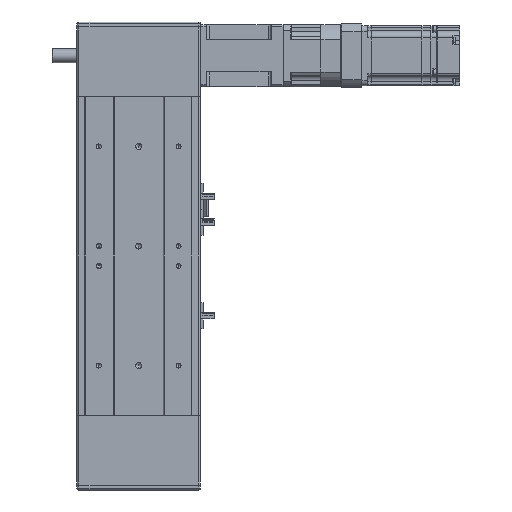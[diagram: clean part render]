
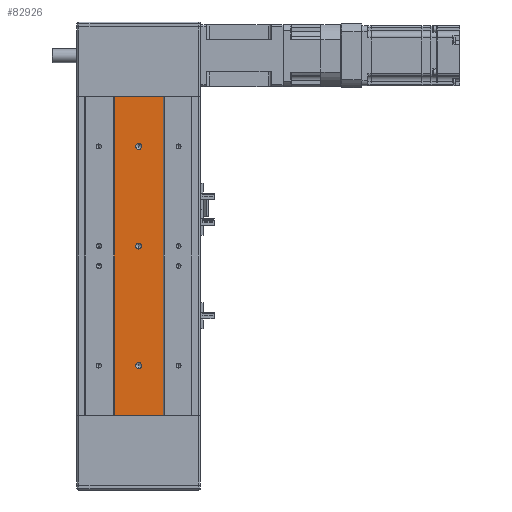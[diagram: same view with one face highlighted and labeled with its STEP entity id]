
A CAD part, front view. The second image highlights one B-rep face of the part: STEP entity #82926.
In plain terms, the highlighted planar face has unit normal (0, -1, 0).
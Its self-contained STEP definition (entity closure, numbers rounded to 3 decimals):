
#3437 = ORIENTED_EDGE ( 'NONE', *, *, #36824, .F. ) ;
#3455 = ORIENTED_EDGE ( 'NONE', *, *, #36828, .F. ) ;
#3468 = ORIENTED_EDGE ( 'NONE', *, *, #35992, .F. ) ;
#3475 = ORIENTED_EDGE ( 'NONE', *, *, #36753, .F. ) ;
#3477 = ORIENTED_EDGE ( 'NONE', *, *, #36813, .F. ) ;
#3511 = ORIENTED_EDGE ( 'NONE', *, *, #35984, .F. ) ;
#3530 = ORIENTED_EDGE ( 'NONE', *, *, #36787, .T. ) ;
#3575 = ORIENTED_EDGE ( 'NONE', *, *, #36856, .F. ) ;
#3771 = ORIENTED_EDGE ( 'NONE', *, *, #36867, .T. ) ;
#12339 = VECTOR ( 'NONE', #17059, 1000. ) ;
#12381 = VECTOR ( 'NONE', #16991, 1000. ) ;
#12396 = LINE ( 'NONE', #17054, #12339 ) ;
#12451 = LINE ( 'NONE', #17027, #12381 ) ;
#12473 = VECTOR ( 'NONE', #17154, 1000. ) ;
#12535 = CIRCLE ( 'NONE', #38524, 3. ) ;
#12547 = VECTOR ( 'NONE', #17075, 1000. ) ;
#12603 = LINE ( 'NONE', #17170, #12473 ) ;
#12615 = LINE ( 'NONE', #17095, #12547 ) ;
#12620 = CIRCLE ( 'NONE', #38426, 3. ) ;
#12623 = CIRCLE ( 'NONE', #38449, 3. ) ;
#13709 = CIRCLE ( 'NONE', #38224, 3. ) ;
#13724 = CIRCLE ( 'NONE', #38188, 3. ) ;
#13743 = CIRCLE ( 'NONE', #38217, 3. ) ;
#16991 = DIRECTION ( 'NONE',  ( 0., 0., -1. ) ) ;
#17027 = CARTESIAN_POINT ( 'NONE',  ( 24.5, -42., 160. ) ) ;
#17054 = CARTESIAN_POINT ( 'NONE',  ( -24.5, -42., 160. ) ) ;
#17059 = DIRECTION ( 'NONE',  ( 0., 0., -1. ) ) ;
#17069 = DIRECTION ( 'NONE',  ( 0., 0., -1. ) ) ;
#17071 = CARTESIAN_POINT ( 'NONE',  ( 0., -42., 10. ) ) ;
#17075 = DIRECTION ( 'NONE',  ( -1., 0., 0. ) ) ;
#17083 = DIRECTION ( 'NONE',  ( 0., -1., 0. ) ) ;
#17095 = CARTESIAN_POINT ( 'NONE',  ( 0., -42., -160. ) ) ;
#17105 = CARTESIAN_POINT ( 'NONE',  ( 0., -42., -110. ) ) ;
#17107 = DIRECTION ( 'NONE',  ( 0., 0., -1. ) ) ;
#17112 = DIRECTION ( 'NONE',  ( 0., -1., 0. ) ) ;
#17125 = CARTESIAN_POINT ( 'NONE',  ( 0., -42., 110. ) ) ;
#17132 = DIRECTION ( 'NONE',  ( 0., 0., -1. ) ) ;
#17141 = DIRECTION ( 'NONE',  ( 0., -1., 0. ) ) ;
#17154 = DIRECTION ( 'NONE',  ( -1., 0., 0. ) ) ;
#17170 = CARTESIAN_POINT ( 'NONE',  ( 0., -42., 160. ) ) ;
#17848 = AXIS2_PLACEMENT_3D ( 'NONE', #46395, #46358, #46365 ) ;
#20891 = CARTESIAN_POINT ( 'NONE',  ( 0., -42., 113. ) ) ;
#20903 = CARTESIAN_POINT ( 'NONE',  ( 0., -42., -107. ) ) ;
#20934 = CARTESIAN_POINT ( 'NONE',  ( 0., -42., 13. ) ) ;
#20955 = CARTESIAN_POINT ( 'NONE',  ( 0., -42., -113. ) ) ;
#21001 = CARTESIAN_POINT ( 'NONE',  ( 0., -42., 7. ) ) ;
#21058 = CARTESIAN_POINT ( 'NONE',  ( 0., -42., 107. ) ) ;
#21152 = CARTESIAN_POINT ( 'NONE',  ( 24.5, -42., 160. ) ) ;
#21211 = CARTESIAN_POINT ( 'NONE',  ( 24.5, -42., -160. ) ) ;
#21233 = CARTESIAN_POINT ( 'NONE',  ( -24.5, -42., 160. ) ) ;
#21247 = CARTESIAN_POINT ( 'NONE',  ( -24.5, -42., -160. ) ) ;
#26962 = EDGE_LOOP ( 'NONE', ( #3437, #3475, #3771, #3530 ) ) ;
#27024 = EDGE_LOOP ( 'NONE', ( #3455, #3511 ) ) ;
#27026 = EDGE_LOOP ( 'NONE', ( #3575, #3468 ) ) ;
#27041 = EDGE_LOOP ( 'NONE', ( #3477, #27210 ) ) ;
#27210 = ORIENTED_EDGE ( 'NONE', *, *, #36033, .F. ) ;
#29932 = CARTESIAN_POINT ( 'NONE',  ( 0., -42., -110. ) ) ;
#29934 = DIRECTION ( 'NONE',  ( 0., -1., 0. ) ) ;
#29960 = CARTESIAN_POINT ( 'NONE',  ( 0., -42., 110. ) ) ;
#29967 = DIRECTION ( 'NONE',  ( 0., 0., -1. ) ) ;
#30000 = DIRECTION ( 'NONE',  ( 0., -1., 0. ) ) ;
#30005 = DIRECTION ( 'NONE',  ( 0., 0., -1. ) ) ;
#30467 = DIRECTION ( 'NONE',  ( 0., -1., 0. ) ) ;
#30515 = DIRECTION ( 'NONE',  ( 0., 0., -1. ) ) ;
#30567 = CARTESIAN_POINT ( 'NONE',  ( 0., -42., 10. ) ) ;
#35984 = EDGE_CURVE ( 'NONE', #64961, #65027, #13743, .T. ) ;
#35992 = EDGE_CURVE ( 'NONE', #64985, #65127, #13724, .T. ) ;
#36033 = EDGE_CURVE ( 'NONE', #65066, #65126, #13709, .T. ) ;
#36077 = FACE_BOUND ( 'NONE', #27041, .T. ) ;
#36079 = FACE_BOUND ( 'NONE', #27024, .T. ) ;
#36101 = FACE_OUTER_BOUND ( 'NONE', #26962, .T. ) ;
#36135 = FACE_BOUND ( 'NONE', #27026, .T. ) ;
#36753 = EDGE_CURVE ( 'NONE', #65409, #65482, #12451, .T. ) ;
#36787 = EDGE_CURVE ( 'NONE', #65558, #65539, #12396, .T. ) ;
#36813 = EDGE_CURVE ( 'NONE', #65126, #65066, #12535, .T. ) ;
#36824 = EDGE_CURVE ( 'NONE', #65482, #65539, #12615, .T. ) ;
#36828 = EDGE_CURVE ( 'NONE', #65027, #64961, #12623, .T. ) ;
#36856 = EDGE_CURVE ( 'NONE', #65127, #64985, #12620, .T. ) ;
#36867 = EDGE_CURVE ( 'NONE', #65409, #65558, #12603, .T. ) ;
#38188 = AXIS2_PLACEMENT_3D ( 'NONE', #29960, #30000, #30005 ) ;
#38217 = AXIS2_PLACEMENT_3D ( 'NONE', #29932, #29934, #29967 ) ;
#38224 = AXIS2_PLACEMENT_3D ( 'NONE', #30567, #30467, #30515 ) ;
#38426 = AXIS2_PLACEMENT_3D ( 'NONE', #17125, #17141, #17107 ) ;
#38449 = AXIS2_PLACEMENT_3D ( 'NONE', #17105, #17112, #17132 ) ;
#38524 = AXIS2_PLACEMENT_3D ( 'NONE', #17071, #17083, #17069 ) ;
#46358 = DIRECTION ( 'NONE',  ( 0., -1., 0. ) ) ;
#46365 = DIRECTION ( 'NONE',  ( 0., 0., -1. ) ) ;
#46378 = PLANE ( 'NONE',  #17848 ) ;
#46395 = CARTESIAN_POINT ( 'NONE',  ( 0., -42., 160. ) ) ;
#64961 = VERTEX_POINT ( 'NONE', #20903 ) ;
#64985 = VERTEX_POINT ( 'NONE', #20891 ) ;
#65027 = VERTEX_POINT ( 'NONE', #20955 ) ;
#65066 = VERTEX_POINT ( 'NONE', #20934 ) ;
#65126 = VERTEX_POINT ( 'NONE', #21001 ) ;
#65127 = VERTEX_POINT ( 'NONE', #21058 ) ;
#65409 = VERTEX_POINT ( 'NONE', #21152 ) ;
#65482 = VERTEX_POINT ( 'NONE', #21211 ) ;
#65539 = VERTEX_POINT ( 'NONE', #21247 ) ;
#65558 = VERTEX_POINT ( 'NONE', #21233 ) ;
#82926 = ADVANCED_FACE ( 'NONE', ( #36077, #36135, #36079, #36101 ), #46378, .T. ) ;
